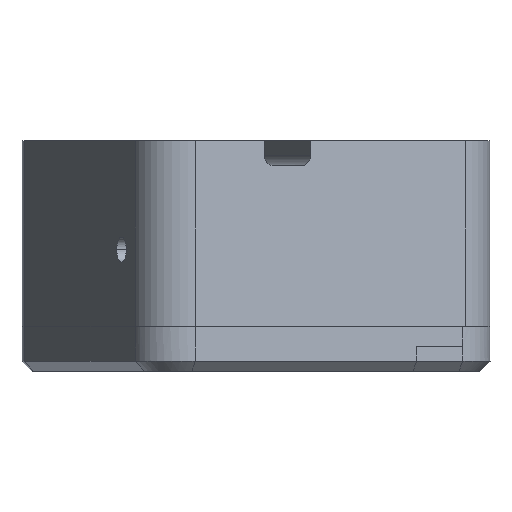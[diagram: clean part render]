
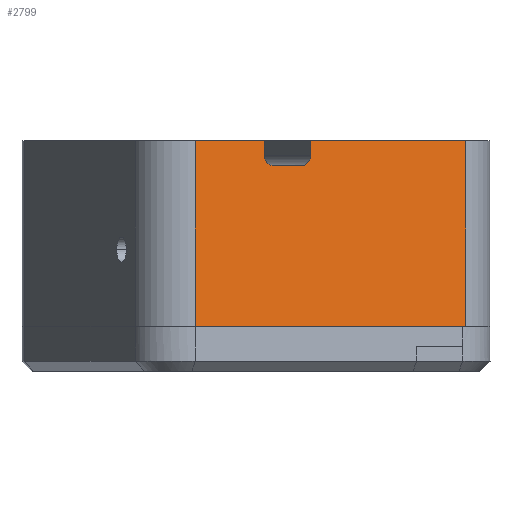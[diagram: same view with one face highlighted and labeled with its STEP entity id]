
A CAD part, left-side view. The second image highlights one B-rep face of the part: STEP entity #2799.
In plain terms, the highlighted planar face has unit normal (-0.923, -0.384, 0).
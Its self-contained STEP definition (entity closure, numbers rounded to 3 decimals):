
#93 = AXIS2_PLACEMENT_3D ( 'NONE', #638, #1447, #675 ) ;
#158 = DIRECTION ( 'NONE',  ( 0., 0., -1. ) ) ;
#285 = EDGE_CURVE ( 'NONE', #8542, #3749, #580, .T. ) ;
#296 = CARTESIAN_POINT ( 'NONE',  ( -78.255, 14.086, 90.978 ) ) ;
#306 = ORIENTED_EDGE ( 'NONE', *, *, #5881, .F. ) ;
#580 = LINE ( 'NONE', #7665, #8402 ) ;
#631 = ORIENTED_EDGE ( 'NONE', *, *, #285, .T. ) ;
#638 = CARTESIAN_POINT ( 'NONE',  ( -69.879, -6.045, 90.978 ) ) ;
#675 = DIRECTION ( 'NONE',  ( -0.384, 0.923, 0. ) ) ;
#680 = CARTESIAN_POINT ( 'NONE',  ( -68.73, -8.806, 90.978 ) ) ;
#785 = VERTEX_POINT ( 'NONE', #8685 ) ;
#884 = CARTESIAN_POINT ( 'NONE',  ( -81.139, 21.017, 90.978 ) ) ;
#992 = DIRECTION ( 'NONE',  ( 0., 0., 1. ) ) ;
#1265 = VERTEX_POINT ( 'NONE', #6117 ) ;
#1447 = DIRECTION ( 'NONE',  ( -0.923, -0.384, 0. ) ) ;
#1514 =( BOUNDED_CURVE ( )  B_SPLINE_CURVE ( 3, ( #4146, #9510, #8103, #8032 ),
 .UNSPECIFIED., .F., .F. ) 
 B_SPLINE_CURVE_WITH_KNOTS ( ( 4, 4 ),
 ( 0., 1.571 ),
 .UNSPECIFIED. ) 
 CURVE ( )  GEOMETRIC_REPRESENTATION_ITEM ( )  RATIONAL_B_SPLINE_CURVE ( ( 1., 0.805, 0.805, 1. ) ) 
 REPRESENTATION_ITEM ( '' )  );
#1543 = CARTESIAN_POINT ( 'NONE',  ( -78.255, 14.086, 89.478 ) ) ;
#2034 = CARTESIAN_POINT ( 'NONE',  ( -69.879, -6.045, 90.978 ) ) ;
#2142 = DIRECTION ( 'NONE',  ( 0.384, -0.923, 0. ) ) ;
#2148 = DIRECTION ( 'NONE',  ( 0.384, -0.923, 0. ) ) ;
#2257 = LINE ( 'NONE', #3563, #5850 ) ;
#2306 = CARTESIAN_POINT ( 'NONE',  ( -68.73, -8.806, 90.978 ) ) ;
#2316 = CARTESIAN_POINT ( 'NONE',  ( -77.871, 13.163, 88.478 ) ) ;
#2799 = ADVANCED_FACE ( 'NONE', ( #6132 ), #8048, .T. ) ;
#2865 = VECTOR ( 'NONE', #8620, 1000. ) ;
#2906 = EDGE_CURVE ( 'NONE', #3549, #3749, #9492, .T. ) ;
#2941 = ORIENTED_EDGE ( 'NONE', *, *, #7908, .T. ) ;
#3118 = ORIENTED_EDGE ( 'NONE', *, *, #9332, .T. ) ;
#3400 = LINE ( 'NONE', #884, #4586 ) ;
#3413 = LINE ( 'NONE', #4292, #6428 ) ;
#3549 = VERTEX_POINT ( 'NONE', #7300 ) ;
#3563 = CARTESIAN_POINT ( 'NONE',  ( -69.879, -6.045, 88.478 ) ) ;
#3749 = VERTEX_POINT ( 'NONE', #296 ) ;
#3801 = DIRECTION ( 'NONE',  ( 0.384, -0.923, 0. ) ) ;
#3867 = VECTOR ( 'NONE', #2142, 1000. ) ;
#3904 = ORIENTED_EDGE ( 'NONE', *, *, #8172, .T. ) ;
#3941 = ORIENTED_EDGE ( 'NONE', *, *, #5156, .T. ) ;
#4100 = CARTESIAN_POINT ( 'NONE',  ( -76.335, 9.47, 89.478 ) ) ;
#4146 = CARTESIAN_POINT ( 'NONE',  ( -76.335, 9.47, 89.478 ) ) ;
#4153 = LINE ( 'NONE', #2034, #2865 ) ;
#4292 = CARTESIAN_POINT ( 'NONE',  ( -69.88, -6.045, 72.378 ) ) ;
#4543 = EDGE_CURVE ( 'NONE', #6820, #7843, #2257, .T. ) ;
#4586 = VECTOR ( 'NONE', #158, 1000. ) ;
#4741 = CARTESIAN_POINT ( 'NONE',  ( -76.335, 9.47, 90.978 ) ) ;
#5156 = EDGE_CURVE ( 'NONE', #8775, #6820, #1514, .T. ) ;
#5566 = VERTEX_POINT ( 'NONE', #9132 ) ;
#5594 = ORIENTED_EDGE ( 'NONE', *, *, #2906, .F. ) ;
#5818 = LINE ( 'NONE', #680, #3867 ) ;
#5850 = VECTOR ( 'NONE', #7922, 1000. ) ;
#5881 = EDGE_CURVE ( 'NONE', #5566, #1265, #5818, .T. ) ;
#5993 =( BOUNDED_CURVE ( )  B_SPLINE_CURVE ( 3, ( #2316, #8338, #9092, #8237 ),
 .UNSPECIFIED., .F., .F. ) 
 B_SPLINE_CURVE_WITH_KNOTS ( ( 4, 4 ),
 ( 1.571, 3.142 ),
 .UNSPECIFIED. ) 
 CURVE ( )  GEOMETRIC_REPRESENTATION_ITEM ( )  RATIONAL_B_SPLINE_CURVE ( ( 1., 0.805, 0.805, 1. ) ) 
 REPRESENTATION_ITEM ( '' )  );
#6117 = CARTESIAN_POINT ( 'NONE',  ( -69.879, -6.045, 90.978 ) ) ;
#6132 = FACE_OUTER_BOUND ( 'NONE', #7103, .T. ) ;
#6283 = EDGE_CURVE ( 'NONE', #9284, #1265, #4153, .T. ) ;
#6428 = VECTOR ( 'NONE', #2148, 1000. ) ;
#6634 = ORIENTED_EDGE ( 'NONE', *, *, #6283, .T. ) ;
#6820 = VERTEX_POINT ( 'NONE', #7789 ) ;
#6998 = CARTESIAN_POINT ( 'NONE',  ( -69.88, -6.045, 72.378 ) ) ;
#7103 = EDGE_LOOP ( 'NONE', ( #306, #3118, #3941, #8423, #8884, #631, #5594, #3904, #2941, #6634 ) ) ;
#7189 = CARTESIAN_POINT ( 'NONE',  ( -77.871, 13.163, 88.478 ) ) ;
#7240 = EDGE_CURVE ( 'NONE', #7843, #8542, #5993, .T. ) ;
#7300 = CARTESIAN_POINT ( 'NONE',  ( -81.139, 21.017, 90.978 ) ) ;
#7551 = VECTOR ( 'NONE', #3801, 1000. ) ;
#7665 = CARTESIAN_POINT ( 'NONE',  ( -78.255, 14.086, 90.978 ) ) ;
#7789 = CARTESIAN_POINT ( 'NONE',  ( -76.719, 10.393, 88.478 ) ) ;
#7843 = VERTEX_POINT ( 'NONE', #7189 ) ;
#7908 = EDGE_CURVE ( 'NONE', #785, #9284, #3413, .T. ) ;
#7922 = DIRECTION ( 'NONE',  ( -0.384, 0.923, 0. ) ) ;
#8032 = CARTESIAN_POINT ( 'NONE',  ( -76.719, 10.393, 88.478 ) ) ;
#8048 = PLANE ( 'NONE',  #93 ) ;
#8103 = CARTESIAN_POINT ( 'NONE',  ( -76.494, 9.853, 88.478 ) ) ;
#8172 = EDGE_CURVE ( 'NONE', #3549, #785, #3400, .T. ) ;
#8237 = CARTESIAN_POINT ( 'NONE',  ( -78.255, 14.086, 89.478 ) ) ;
#8338 = CARTESIAN_POINT ( 'NONE',  ( -78.096, 13.704, 88.478 ) ) ;
#8402 = VECTOR ( 'NONE', #992, 1000. ) ;
#8423 = ORIENTED_EDGE ( 'NONE', *, *, #4543, .T. ) ;
#8542 = VERTEX_POINT ( 'NONE', #1543 ) ;
#8620 = DIRECTION ( 'NONE',  ( 0., 0., 1. ) ) ;
#8685 = CARTESIAN_POINT ( 'NONE',  ( -81.139, 21.017, 72.378 ) ) ;
#8730 = VECTOR ( 'NONE', #9383, 1000. ) ;
#8775 = VERTEX_POINT ( 'NONE', #4100 ) ;
#8884 = ORIENTED_EDGE ( 'NONE', *, *, #7240, .T. ) ;
#8966 = LINE ( 'NONE', #4741, #8730 ) ;
#9092 = CARTESIAN_POINT ( 'NONE',  ( -78.255, 14.086, 88.892 ) ) ;
#9132 = CARTESIAN_POINT ( 'NONE',  ( -76.335, 9.47, 90.978 ) ) ;
#9284 = VERTEX_POINT ( 'NONE', #6998 ) ;
#9332 = EDGE_CURVE ( 'NONE', #5566, #8775, #8966, .T. ) ;
#9383 = DIRECTION ( 'NONE',  ( 0., 0., -1. ) ) ;
#9492 = LINE ( 'NONE', #2306, #7551 ) ;
#9510 = CARTESIAN_POINT ( 'NONE',  ( -76.335, 9.47, 88.892 ) ) ;
